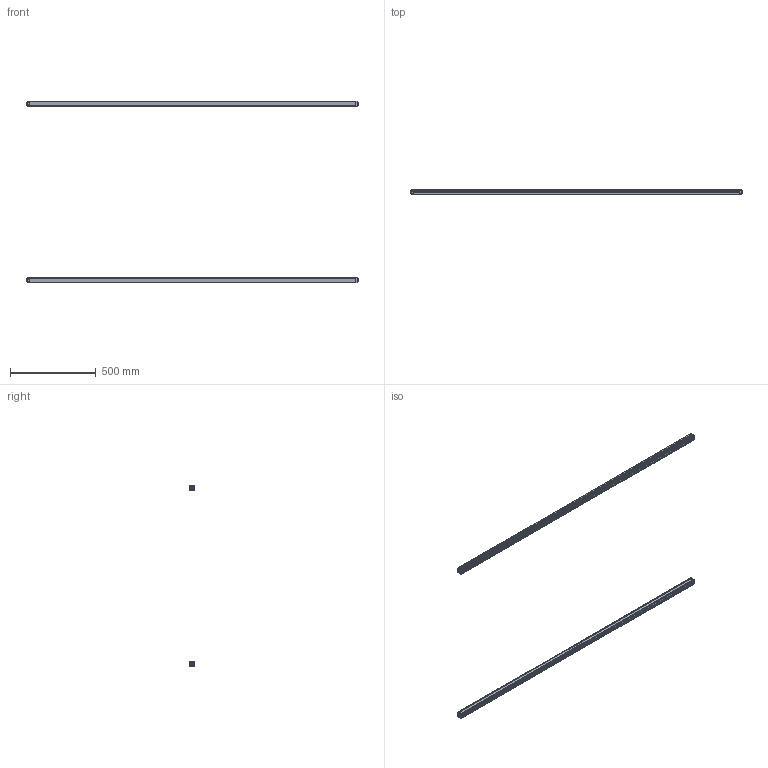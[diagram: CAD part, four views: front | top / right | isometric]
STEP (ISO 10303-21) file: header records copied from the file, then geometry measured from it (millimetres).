
FILE_DESCRIPTION(/* description */ (''),/* implementation_level */ '2;1');
FILE_NAME(/* name */ 'THS20-9？.stp',/* time_stamp */ '2023-12-26T17:41:10+08:00',/* author */ (''),/* organization */ (''),/* preprocessor_version */ 'ST-DEVELOPER v16',/* originating_system */ 'SIEMENS PLM Software NX 11.0',/* authorisation */ '');
FILE_SCHEMA (('AP203_CONFIGURATION_CONTROLLED_3D_DESIGN_OF_MECHANICAL_PARTS_AND_ASSEMBLIES_MIM_LF { 1 0 10303 403 2 1 2}'));
Length unit declared in the file: millimetre
Products named in the file (10): 16; 14; 12; 13; 102; 101; 11; ASM0002_ASM; 0000_ASM; THS20-52--_stp
Assembly tree (10 placements, depth 4):
  THS20-52--_stp
    0000_ASM  x2
      11
      101
      102
      13
      12
      ASM0002_ASM
        14
        16
Bounding box: 1932 x 30.3 x 1058.6 mm (x, y, z)
Volume: 1186881.4 mm3; surface area: 1263927.3 mm2
Topology: 10 solids, 14 shells, 1080 faces, 3010 edges, 1986 vertices
Faces by surface type: plane 764, cylinder 288, cone 28
Entity records: 18484 total; most frequent: CARTESIAN_POINT 3097, ORIENTED_EDGE 3006, DIRECTION 2915, EDGE_CURVE 1505, LINE 1173, VECTOR 1173, VERTEX_POINT 993, AXIS2_PLACEMENT_3D 871
